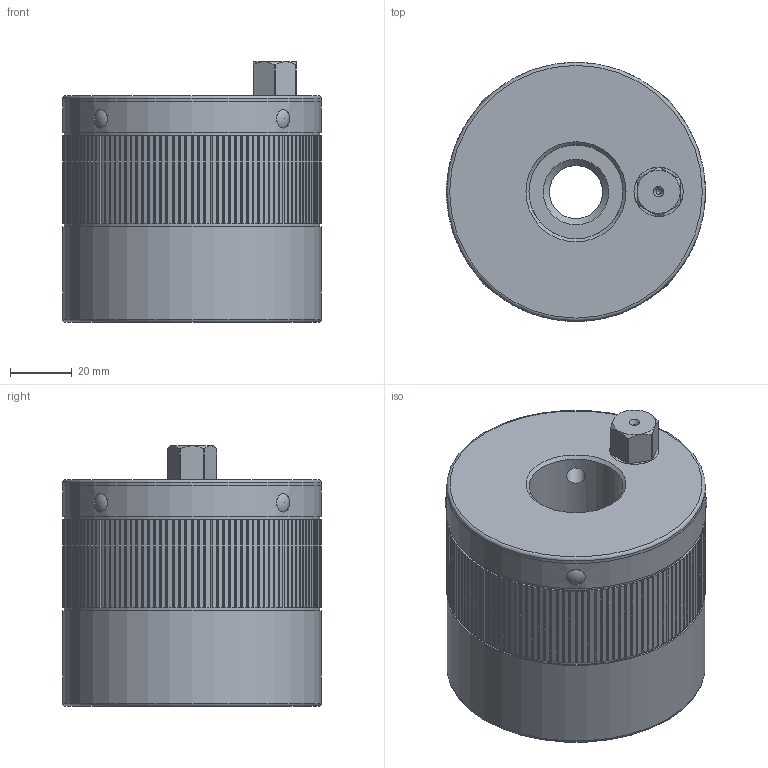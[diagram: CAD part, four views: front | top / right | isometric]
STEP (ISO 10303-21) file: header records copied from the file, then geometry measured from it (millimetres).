
FILE_DESCRIPTION(/* description */ ('Unknown','CAx-IF Rec.Pracs.---Representation and Presentation of Product Manufacturing Information (PMI)---4.0---2014-10-13','CAx-IF Rec.Pracs.---3D Tessellated Geometry---0.4---2014-09-14','2;1'),/* implementation_level */ '2;1');
FILE_NAME(/* name */ 'MDA 120_SW14_M20',/* time_stamp */ '2023-09-15T11:03:35+02:00',/* author */ ('Unknown'),/* organization */ ('Unknown'),/* preprocessor_version */ 'ST-DEVELOPER v18.102',/* originating_system */ 'Solid Edge',/* authorisation */ 'Unknown');
FILE_SCHEMA (('AP242_MANAGED_MODEL_BASED_3D_ENGINEERING_MIM_LF { 1 0 10303 442 1 1 4 }'));
Length unit declared in the file: millimetre
Products named in the file (7): 05933048; 43733046; 42231915; 46432086; KT100003; KT101191; 46331547
Assembly tree (9 placements, depth 2):
  05933048
    43733046
    42231915
    46432086
    KT100003  x4
    KT101191
    46331547
Bounding box: 84 x 84 x 84.5 mm (x, y, z)
Volume: 357853.3 mm3; surface area: 106444 mm2
Topology: 9 solids, 9 shells, 511 faces, 1439 edges, 949 vertices
Faces by surface type: plane 290, cylinder 167, cone 30, torus 10, sphere 8, bspline 6
Full cylindrical faces by diameter (mm): 1.6 x2, 6 x12, 16 x2, 16.5 x1, 17.294 x1, 30.5 x1, 48 x3, 66.2 x1, 71 x1, 74 x1, 76.5 x1, 76.9 x1, 77 x3, 83 x2, 84 x3
Entity records: 16520 total; most frequent: CARTESIAN_POINT 3353, DIRECTION 2638, ORIENTED_EDGE 2630, EDGE_CURVE 1315, LINE 918, VECTOR 918, VERTEX_POINT 911, AXIS2_PLACEMENT_3D 860
